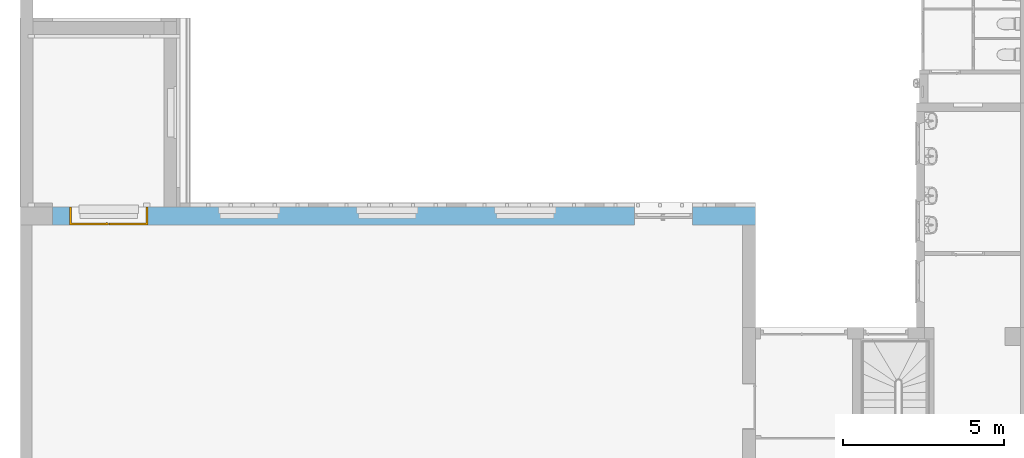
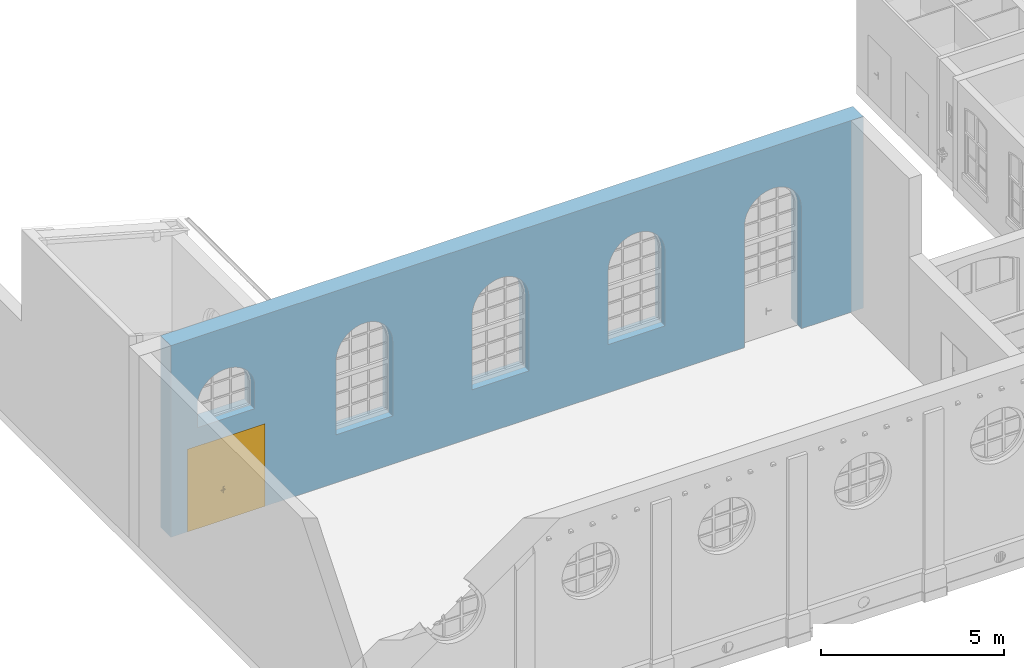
"""IFC4 building model written with IfcOpenShell, lengths in metres."""

from ifc_helpers import new_model, entity, si_unit, converted_unit, derived_unit, frame, frame_2d, origin, origin_with_axes, place, context, subcontext, project, spatial, polyline, rectangle, outline, extrude, faceted_brep, source, transform, mapped, material, layer, layer_set, layer_usage, type_object, element, fill, save


model = new_model("IFC4")

# Units and contexts
model_context = context("Model", 3, precision=1e-05, world=origin())
body_context = subcontext(model_context, "Body", "Model", "MODEL_VIEW")
ifc_project = project(units=[si_unit("LENGTHUNIT", "METRE"), si_unit("AREAUNIT", "SQUARE_METRE"), si_unit("VOLUMEUNIT", "CUBIC_METRE"), si_unit("MASSUNIT", "GRAM", prefix="KILO"), converted_unit("PLANEANGLEUNIT", "DEGREE", entity("IfcPlaneAngleMeasure", 0.0174532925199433), si_unit("PLANEANGLEUNIT", "RADIAN"), dimensions=[0, 0, 0, 0, 0, 0, 0]), derived_unit("THERMALTRANSMITTANCEUNIT", [(si_unit("POWERUNIT", "WATT"), 1), (si_unit("THERMODYNAMICTEMPERATUREUNIT", "KELVIN"), -1), (si_unit("LENGTHUNIT", "METRE"), -2)]), derived_unit("VOLUMETRICFLOWRATEUNIT", [(si_unit("LENGTHUNIT", "METRE"), 3), (converted_unit("TIMEUNIT", "hour", entity("IfcTimeMeasure", 3600.0), si_unit("TIMEUNIT", "SECOND"), dimensions=[0, 0, 1, 0, 0, 0, 0]), -1), (si_unit("LENGTHUNIT", "METRE"), -1)])], contexts=[model_context])

# Building, storeys
building_placement = place(None, origin())
building = spatial("IfcBuilding", under=ifc_project, at=building_placement, Name="Bestandsgebäude A - Sporthalle / Wohnhaus (TB 100-499)   ANPASSEN !!!", CompositionType="ELEMENT")
storey_1_placement = place(building_placement, origin())
storey_1 = spatial("IfcBuildingStorey", under=building, at=storey_1_placement, Name="Geb. A Erdgeschoss (TB 200-249)", CompositionType="ELEMENT", Elevation=0.0)
storey_2_placement = place(storey_1_placement, origin())
storey_2 = spatial("IfcBuildingStorey", under=storey_1, at=storey_2_placement, Name="Architektur (TB 200-209)", CompositionType="PARTIAL")

# Wall, openings, door
ifc_material = material(Name="concrete")
ifc_layer = layer(ifc_material, 0.56)
ifc_layer_set = layer_set([ifc_layer])
ifc_layer_usage = layer_usage(ifc_layer_set, "AXIS2", "POSITIVE", 0.0)
wall_placement = place(storey_2_placement, frame((-8.5, 13.0, 0.0), z_axis=(0.0, 0.0, 1.0), x_axis=(-1.0, 1.66345624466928e-16, 0.0)))
wall = element("IfcWall", 1, at=wall_placement, inside=storey_2, material=ifc_layer_usage, Name="reinforced - bearing", PredefinedType="USERDEFINED", context=body_context, shape_type="SweptSolid", body=[
    extrude(rectangle(XDim=21.87, YDim=0.56, at=frame_2d((10.935, 0.28), x_axis=(1.0, 0.0))), origin_with_axes(), (0.0, 0.0, 1.0), 6.4),
])
opening_1_placement = place(wall_placement, frame((1.95999999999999, 0.0, 0.0), z_axis=(0.0, 1.0, 0.0), x_axis=(0.0, 0.0, 1.0)))
element("IfcOpeningElement", 2, at=opening_1_placement, cuts=wall, Name="Door opening", PredefinedType="OPENING", context=body_context, shape_type="SweptSolid", body=[
    extrude(outline(polyline([(4.03999999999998, 1.8), (4.1403473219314, 1.79506970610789), (4.23959521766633, 1.78033284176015), (4.33665630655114, 1.7559508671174), (4.4304671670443, 1.72219091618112), (4.51999998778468, 1.67942287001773), (4.60427382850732, 1.62811530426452), (4.68236536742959, 1.56883035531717), (4.75341901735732, 1.5022175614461), (4.81665629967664, 1.42900674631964), (4.87138437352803, 1.35000002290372), (4.91700362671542, 1.26606300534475), (4.95301424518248, 1.17811532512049), (4.97902168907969, 1.08712055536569), (4.99474101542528, 0.994075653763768), (5.0, 0.900000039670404), (4.99474102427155, 0.805924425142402), (4.9790217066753, 0.71287952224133), (4.95301427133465, 0.621884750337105), (4.91700366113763, 0.533937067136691), (4.87138441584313, 0.450000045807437), (4.81665634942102, 0.370993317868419), (4.75341907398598, 0.297782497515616), (4.68236543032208, 0.231169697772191), (4.60427389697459, 0.171884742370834), (4.52000006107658, 0.120577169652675), (4.43046724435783, 0.0778091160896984), (4.33665638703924, 0.0440491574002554), (4.23959530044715, 0.0196671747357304), (4.14034740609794, 0.00493030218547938), (4.04000008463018, 0.0), (0.0, 0.0), (0.0, 1.8), (4.03999999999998, 1.8)])), origin_with_axes(), (0.0, 0.0, 1.0), 0.56),
])
opening_2_placement = place(wall_placement, frame((6.26357142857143, 0.0, 1.6), z_axis=(0.0, 1.0, 0.0), x_axis=(0.0, 0.0, 1.0)))
element("IfcOpeningElement", 3, at=opening_2_placement, cuts=wall, Name="Window opening", PredefinedType="OPENING", context=body_context, shape_type="SweptSolid", body=[
    extrude(outline(polyline([(2.46000001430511, 1.7964285), (2.56034733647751, 1.79150798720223), (2.65959523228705, 1.77680036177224), (2.75665632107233, 1.75246676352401), (2.8504671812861, 1.71877379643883), (2.94000000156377, 1.67609060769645), (3.02427384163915, 1.62488484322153), (3.10236537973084, 1.56571752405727), (3.17341902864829, 1.49923689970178), (3.23665630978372, 1.42617134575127), (3.29138438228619, 1.34732138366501), (3.33700363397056, 1.2635509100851), (3.37301425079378, 1.17577773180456), (3.39902169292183, 1.08496351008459), (3.41474101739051, 0.992103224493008), (3.42, 0.898214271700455), (3.4147410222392, 0.804325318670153), (3.39902170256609, 0.711465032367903), (3.37301426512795, 0.620650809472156), (3.33700365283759, 0.532877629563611), (3.29138440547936, 0.449107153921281), (3.23665633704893, 0.370257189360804), (3.17341905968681, 0.297191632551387), (3.10236541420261, 0.230711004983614), (3.0242738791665, 0.17154368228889), (2.94000004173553, 0.120337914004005), (2.85046722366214, 0.0776547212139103), (2.75665636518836, 0.0439617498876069), (2.65959527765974, 0.0196281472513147), (2.56034738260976, 0.00492051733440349), (2.46000006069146, 0.0), (0.0, 0.0), (0.0, 1.7964285), (2.46000001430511, 1.7964285)])), origin_with_axes(), (0.0, 0.0, 1.0), 0.56),
])
opening_3_placement = place(wall_placement, frame((10.56, 0.0, 1.6), z_axis=(0.0, 1.0, 0.0), x_axis=(0.0, 0.0, 1.0)))
element("IfcOpeningElement", 4, at=opening_3_placement, cuts=wall, Name="Window opening", PredefinedType="OPENING", context=body_context, shape_type="SweptSolid", body=[
    extrude(outline(polyline([(2.46000001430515, 1.7964285), (2.56034733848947, 1.79150798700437), (2.65959523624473, 1.77680036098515), (2.75665632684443, 1.75246676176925), (2.85046718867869, 1.71877379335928), (2.94000001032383, 1.67609060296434), (3.02427385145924, 1.62488483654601), (3.10236539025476, 1.56571751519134), (3.17341903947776, 1.49923688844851), (3.23665632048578, 1.42617133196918), (3.29138439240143, 1.3473213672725), (3.33700364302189, 1.2635508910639), (3.37301425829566, 1.17577771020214), (3.39902169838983, 1.08496348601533), (3.41474102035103, 0.992103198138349), (3.42, 0.898214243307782), (3.41474101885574, 0.804325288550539), (3.39902169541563, 0.711465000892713), (3.37301425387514, 0.620650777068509), (3.33700363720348, 0.532877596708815), (3.29138438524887, 0.449107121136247), (3.23665631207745, 0.370257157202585), (3.17341902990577, 0.297191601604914), (3.10236537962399, 0.230710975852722), (3.02427383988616, 0.171543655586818), (2.93999999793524, 0.120337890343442), (2.85046717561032, 0.077654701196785), (2.75665631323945, 0.0439617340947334), (2.6595952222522, 0.0196281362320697), (2.56034732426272, 0.00492051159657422), (2.46, 0.0), (0.0, 0.0), (0.0, 1.7964285), (2.46000001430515, 1.7964285)])), origin_with_axes(), (0.0, 0.0, 1.0), 0.56),
])
opening_4_placement = place(wall_placement, frame((14.86, 0.0, 1.6), z_axis=(0.0, 1.0, 0.0), x_axis=(0.0, 0.0, 1.0)))
element("IfcOpeningElement", 5, at=opening_4_placement, cuts=wall, Name="Window opening", PredefinedType="OPENING", context=body_context, shape_type="SweptSolid", body=[
    extrude(outline(polyline([(2.46000001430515, 1.7964285), (2.56034733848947, 1.79150798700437), (2.65959523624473, 1.77680036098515), (2.75665632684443, 1.75246676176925), (2.85046718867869, 1.71877379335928), (2.94000001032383, 1.67609060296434), (3.02427385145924, 1.62488483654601), (3.10236539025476, 1.56571751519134), (3.17341903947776, 1.49923688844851), (3.23665632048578, 1.42617133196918), (3.29138439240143, 1.3473213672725), (3.3370036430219, 1.2635508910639), (3.37301425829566, 1.17577771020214), (3.39902169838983, 1.08496348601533), (3.41474102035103, 0.992103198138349), (3.42, 0.898214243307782), (3.41474101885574, 0.804325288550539), (3.39902169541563, 0.711465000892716), (3.37301425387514, 0.620650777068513), (3.33700363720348, 0.532877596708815), (3.29138438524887, 0.449107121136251), (3.23665631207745, 0.370257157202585), (3.17341902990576, 0.297191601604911), (3.10236537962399, 0.230710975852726), (3.02427383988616, 0.171543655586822), (2.93999999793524, 0.120337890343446), (2.85046717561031, 0.077654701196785), (2.75665631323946, 0.0439617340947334), (2.6595952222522, 0.0196281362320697), (2.56034732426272, 0.00492051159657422), (2.46, 0.0), (0.0, 0.0), (0.0, 1.7964285), (2.46000001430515, 1.7964285)])), origin_with_axes(), (0.0, 0.0, 1.0), 0.560000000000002),
])
opening_5_placement = place(wall_placement, frame((19.225, 0.0, 3.37), z_axis=(0.0, 1.0, 0.0), x_axis=(0.0, 0.0, 1.0)))
element("IfcOpeningElement", 6, at=opening_5_placement, cuts=wall, Name="Window opening", PredefinedType="OPENING", context=body_context, shape_type="SweptSolid", body=[
    extrude(outline(polyline([(0.850000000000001, 1.8), (0.936562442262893, 1.78550122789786), (1.02131640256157, 1.762696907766), (1.10346693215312, 1.73180093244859), (1.18224350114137, 1.69310309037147), (1.25690722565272, 1.64696634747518), (1.32675779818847, 1.59382344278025), (1.39114005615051, 1.53417282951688), (1.44945012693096, 1.46857399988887), (1.501141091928, 1.39764223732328), (1.54572811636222, 1.32204284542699), (1.58279299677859, 1.2424849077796), (1.61198808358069, 1.15971463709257), (1.63303954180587, 1.07450837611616), (1.64574991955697, 0.98766531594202), (1.65, 0.9), (1.64574991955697, 0.81233468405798), (1.63303954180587, 0.725491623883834), (1.61198808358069, 0.640285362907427), (1.58279299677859, 0.557515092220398), (1.54572811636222, 0.47795715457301), (1.501141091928, 0.402357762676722), (1.44945012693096, 0.331426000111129), (1.3911400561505, 0.265827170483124), (1.32675779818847, 0.206176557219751), (1.25690722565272, 0.153033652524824), (1.18224350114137, 0.106896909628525), (1.10346693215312, 0.0681990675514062), (1.02131640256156, 0.0373030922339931), (0.936562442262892, 0.0144987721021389), (0.85, 0.0), (0.0, 0.0), (0.0, 1.8), (0.850000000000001, 1.8)])), origin_with_axes(), (0.0, 0.0, 1.0), 0.56),
])
opening_6_placement = place(wall_placement, frame((21.35, 0.56, 0.0), z_axis=(0.0, -1.0, 0.0), x_axis=(0.0, 0.0, 1.0)))
opening_6 = element("IfcOpeningElement", 7, at=opening_6_placement, cuts=wall, Name="Door opening", PredefinedType="OPENING", context=body_context, shape_type="SweptSolid", body=[
    extrude(outline(polyline([(2.76, 2.45), (2.76, 0.0), (0.0, 0.0), (0.0, 2.45), (2.76, 2.45)])), origin_with_axes(), (0.0, 0.0, 1.0), 0.56),
])
door_type = type_object("IfcDoorType", Name="Door", OperationType="DOUBLE_DOOR_SINGLE_SWING", ParameterTakesPrecedence=False, PredefinedType="DOOR")
shared_shape = source(origin_with_axes(), body_context, "Body", "Brep", [
    faceted_brep([(0.0, 0.56, 2.76), (0.0, 0.56, 0.0), (0.07, 0.56, 0.0), (0.07, 0.56, 2.76), (0.0, 0.0, 0.0), (0.0, 0.0, 2.76), (0.07, 0.0, 2.76), (0.07, 0.0, 0.0)], [[[0, 1, 2, 3]], [[4, 5, 6, 7]], [[1, 0, 5, 4]], [[2, 1, 4, 7]], [[3, 2, 7, 6]], [[0, 3, 6, 5]]], orient=[[False], [False], [False], [False], [False], [False]]),
    faceted_brep([(2.38, 0.56, 2.76), (2.38, 0.56, 0.0), (2.45, 0.56, 0.0), (2.45, 0.56, 2.76), (2.38, 0.0, 0.0), (2.38, 0.0, 2.76), (2.45, 0.0, 2.76), (2.45, 0.0, 0.0)], [[[0, 1, 2, 3]], [[4, 5, 6, 7]], [[1, 0, 5, 4]], [[2, 1, 4, 7]], [[3, 2, 7, 6]], [[0, 3, 6, 5]]], orient=[[False], [False], [False], [False], [False], [False]]),
    faceted_brep([(0.07, 0.56, 2.76), (0.07, 0.56, 2.69), (2.38, 0.56, 2.69), (2.38, 0.56, 2.76), (0.07, 0.0, 2.69), (0.07, 0.0, 2.76), (2.38, 0.0, 2.76), (2.38, 0.0, 2.69)], [[[0, 1, 2, 3]], [[4, 5, 6, 7]], [[1, 0, 5, 4]], [[2, 1, 4, 7]], [[3, 2, 7, 6]], [[0, 3, 6, 5]]], orient=[[False], [False], [False], [False], [False], [False]]),
    faceted_brep([(0.07, 0.06, 2.69), (0.07, 0.06, 0.0), (1.2245, 0.06, 0.0), (1.2245, 0.06, 2.69), (0.07, 0.0, 0.0), (0.07, 0.0, 2.69), (1.2245, 0.0, 2.69), (1.2245, 0.0, 0.0)], [[[0, 1, 2, 3]], [[4, 5, 6, 7]], [[1, 0, 5, 4]], [[2, 1, 4, 7]], [[3, 2, 7, 6]], [[0, 3, 6, 5]]], orient=[[False], [False], [False], [False], [False], [False]]),
    faceted_brep([(1.1345, 0.0, 1.125), (1.1345, 0.0, 0.91), (1.1845, 0.0, 0.91), (1.1845, 0.0, 1.125), (1.1345, -0.01, 0.91), (1.1345, -0.01, 1.125), (1.1845, -0.01, 1.125), (1.1845, -0.01, 0.91)], [[[0, 1, 2, 3]], [[4, 5, 6, 7]], [[1, 0, 5, 4]], [[2, 1, 4, 7]], [[3, 2, 7, 6]], [[0, 3, 6, 5]]], orient=[[False], [False], [False], [False], [False], [False]]),
    faceted_brep([(1.1595, -0.01, 1.06), (1.1545, -0.01, 1.05866025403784), (1.15083974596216, -0.01, 1.055), (1.1495, -0.01, 1.05), (1.15083974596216, -0.01, 1.045), (1.1545, -0.01, 1.04133974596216), (1.1595, -0.01, 1.04), (1.1645, -0.01, 1.04133974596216), (1.16816025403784, -0.01, 1.045), (1.1695, -0.01, 1.05), (1.16816025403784, -0.01, 1.055), (1.1645, -0.01, 1.05866025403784), (1.1645, -0.055, 1.05866025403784), (1.1595, -0.05, 1.06), (1.16816025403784, -0.0586602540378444, 1.055), (1.1695, -0.06, 1.05), (1.16816025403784, -0.0586602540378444, 1.045), (1.1645, -0.055, 1.04133974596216), (1.1595, -0.05, 1.04), (1.1545, -0.045, 1.04133974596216), (1.15083974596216, -0.0413397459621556, 1.045), (1.1495, -0.04, 1.05), (1.15083974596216, -0.0413397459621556, 1.055), (1.1545, -0.045, 1.05866025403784), (1.0445, -0.05, 1.06), (1.0445, -0.055, 1.05866025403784), (1.0445, -0.0586602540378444, 1.055), (1.0445, -0.06, 1.05), (1.0445, -0.0586602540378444, 1.045), (1.0445, -0.055, 1.04133974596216), (1.0445, -0.05, 1.04), (1.0445, -0.045, 1.04133974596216), (1.0445, -0.0413397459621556, 1.045), (1.0445, -0.04, 1.05), (1.0445, -0.0413397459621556, 1.055), (1.0445, -0.045, 1.05866025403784)], [[[0, 1, 2, 3, 4, 5, 6, 7, 8, 9, 10, 11]], [[0, 11, 12, 13]], [[11, 10, 14, 12]], [[10, 9, 15, 14]], [[9, 8, 16, 15]], [[8, 7, 17, 16]], [[7, 6, 18, 17]], [[6, 5, 19, 18]], [[5, 4, 20, 19]], [[4, 3, 21, 20]], [[3, 2, 22, 21]], [[2, 1, 23, 22]], [[1, 0, 13, 23]], [[24, 25, 26, 27, 28, 29, 30, 31, 32, 33, 34, 35]], [[13, 12, 25, 24]], [[12, 14, 26, 25]], [[14, 15, 27, 26]], [[15, 16, 28, 27]], [[16, 17, 29, 28]], [[17, 18, 30, 29]], [[18, 19, 31, 30]], [[19, 20, 32, 31]], [[20, 21, 33, 32]], [[21, 22, 34, 33]], [[22, 23, 35, 34]], [[23, 13, 24, 35]]], orient=[[False], [False], [False], [False], [False], [False], [False], [False], [False], [False], [False], [False], [False], [False], [False], [False], [False], [False], [False], [False], [False], [False], [False], [False], [False], [False]]),
    faceted_brep([(1.1345, 0.06, 1.125), (1.1845, 0.06, 1.125), (1.1845, 0.06, 0.91), (1.1345, 0.06, 0.91), (1.1345, 0.07, 0.91), (1.1845, 0.07, 0.91), (1.1845, 0.07, 1.125), (1.1345, 0.07, 1.125)], [[[0, 1, 2, 3]], [[4, 5, 6, 7]], [[3, 4, 7, 0]], [[2, 5, 4, 3]], [[1, 6, 5, 2]], [[0, 7, 6, 1]]], orient=[[False], [False], [False], [False], [False], [False]]),
    faceted_brep([(1.1595, 0.07, 1.06), (1.1645, 0.07, 1.05866025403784), (1.16816025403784, 0.07, 1.055), (1.1695, 0.07, 1.05), (1.16816025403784, 0.07, 1.045), (1.1645, 0.07, 1.04133974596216), (1.1595, 0.07, 1.04), (1.1545, 0.07, 1.04133974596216), (1.15083974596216, 0.07, 1.045), (1.1495, 0.07, 1.05), (1.15083974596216, 0.07, 1.055), (1.1545, 0.07, 1.05866025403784), (1.1595, 0.11, 1.06), (1.1645, 0.115, 1.05866025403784), (1.16816025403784, 0.118660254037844, 1.055), (1.1695, 0.12, 1.05), (1.16816025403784, 0.118660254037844, 1.045), (1.1645, 0.115, 1.04133974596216), (1.1595, 0.11, 1.04), (1.1545, 0.105, 1.04133974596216), (1.15083974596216, 0.101339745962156, 1.045), (1.1495, 0.1, 1.05), (1.15083974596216, 0.101339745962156, 1.055), (1.1545, 0.105, 1.05866025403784), (1.0445, 0.11, 1.06), (1.0445, 0.105, 1.05866025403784), (1.0445, 0.101339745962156, 1.055), (1.0445, 0.1, 1.05), (1.0445, 0.101339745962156, 1.045), (1.0445, 0.105, 1.04133974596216), (1.0445, 0.11, 1.04), (1.0445, 0.115, 1.04133974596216), (1.0445, 0.118660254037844, 1.045), (1.0445, 0.12, 1.05), (1.0445, 0.118660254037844, 1.055), (1.0445, 0.115, 1.05866025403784)], [[[0, 1, 2, 3, 4, 5, 6, 7, 8, 9, 10, 11]], [[0, 12, 13, 1]], [[1, 13, 14, 2]], [[2, 14, 15, 3]], [[3, 15, 16, 4]], [[4, 16, 17, 5]], [[5, 17, 18, 6]], [[6, 18, 19, 7]], [[7, 19, 20, 8]], [[8, 20, 21, 9]], [[9, 21, 22, 10]], [[10, 22, 23, 11]], [[11, 23, 12, 0]], [[24, 25, 26, 27, 28, 29, 30, 31, 32, 33, 34, 35]], [[12, 24, 35, 13]], [[13, 35, 34, 14]], [[14, 34, 33, 15]], [[15, 33, 32, 16]], [[16, 32, 31, 17]], [[17, 31, 30, 18]], [[18, 30, 29, 19]], [[19, 29, 28, 20]], [[20, 28, 27, 21]], [[21, 27, 26, 22]], [[22, 26, 25, 23]], [[23, 25, 24, 12]]], orient=[[False], [False], [False], [False], [False], [False], [False], [False], [False], [False], [False], [False], [False], [False], [False], [False], [False], [False], [False], [False], [False], [False], [False], [False], [False], [False]]),
    faceted_brep([(1.2255, 0.06, 2.71), (1.2255, 0.06, 0.0), (2.38, 0.06, 0.0), (2.38, 0.06, 2.71), (1.2255, 0.0, 0.0), (1.2255, 0.0, 2.71), (2.38, 0.0, 2.71), (2.38, 0.0, 0.0)], [[[0, 1, 2, 3]], [[4, 5, 6, 7]], [[1, 0, 5, 4]], [[2, 1, 4, 7]], [[3, 2, 7, 6]], [[0, 3, 6, 5]]], orient=[[False], [False], [False], [False], [False], [False]]),
])
door_placement = place(opening_6_placement, frame((0.0, 0.0, 0.0), z_axis=(1.0, 0.0, 0.0), x_axis=(0.0, 1.0, 1.66345624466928e-16)))
door = element("IfcDoor", 8, at=door_placement, inside=storey_2, type_object=door_type, Name="Door", OverallHeight=2.76, OverallWidth=2.45, context=body_context, shape_type="MappedRepresentation", body=[
    mapped(shared_shape, transform((0.0, 0.0, 0.0), x_axis=(1.0, 0.0, 0.0), y_axis=(0.0, 1.0, 0.0), z_axis=(0.0, 0.0, 1.0), scale=1.0)),
])
fill(opening_6, door)

save(model, "model.ifc")
